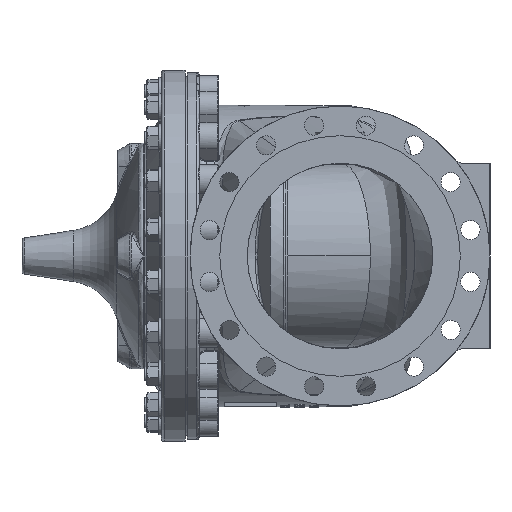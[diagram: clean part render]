
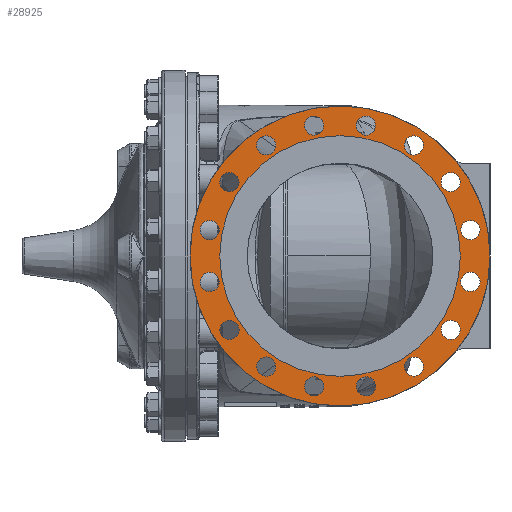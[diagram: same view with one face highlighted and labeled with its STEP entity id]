
A CAD part, left-side view. The second image highlights one B-rep face of the part: STEP entity #28925.
In plain terms, the highlighted planar face has unit normal (-1, 0, 0).
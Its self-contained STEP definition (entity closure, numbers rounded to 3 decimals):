
#1570=FACE_BOUND('',#4297,.T.);
#1571=FACE_BOUND('',#4298,.T.);
#1572=FACE_BOUND('',#4299,.T.);
#1573=FACE_BOUND('',#4300,.T.);
#1574=FACE_BOUND('',#4301,.T.);
#1575=FACE_BOUND('',#4302,.T.);
#1576=FACE_BOUND('',#4303,.T.);
#1577=FACE_BOUND('',#4304,.T.);
#1578=FACE_BOUND('',#4305,.T.);
#1579=FACE_BOUND('',#4306,.T.);
#1580=FACE_BOUND('',#4307,.T.);
#1581=FACE_BOUND('',#4308,.T.);
#1582=FACE_BOUND('',#4309,.T.);
#1583=FACE_BOUND('',#4310,.T.);
#1584=FACE_BOUND('',#4311,.T.);
#1585=FACE_BOUND('',#4312,.T.);
#1586=FACE_BOUND('',#4313,.T.);
#1741=PLANE('',#30983);
#2348=FACE_OUTER_BOUND('',#4296,.T.);
#4296=EDGE_LOOP('',(#19391));
#4297=EDGE_LOOP('',(#19392));
#4298=EDGE_LOOP('',(#19393));
#4299=EDGE_LOOP('',(#19394));
#4300=EDGE_LOOP('',(#19395));
#4301=EDGE_LOOP('',(#19396));
#4302=EDGE_LOOP('',(#19397));
#4303=EDGE_LOOP('',(#19398));
#4304=EDGE_LOOP('',(#19399));
#4305=EDGE_LOOP('',(#19400));
#4306=EDGE_LOOP('',(#19401));
#4307=EDGE_LOOP('',(#19402));
#4308=EDGE_LOOP('',(#19403));
#4309=EDGE_LOOP('',(#19404));
#4310=EDGE_LOOP('',(#19405));
#4311=EDGE_LOOP('',(#19406));
#4312=EDGE_LOOP('',(#19407));
#4313=EDGE_LOOP('',(#19408));
#6347=CIRCLE('',#30860,15.5);
#6349=CIRCLE('',#30863,15.5);
#6351=CIRCLE('',#30866,15.5);
#6353=CIRCLE('',#30869,15.5);
#6355=CIRCLE('',#30872,15.5);
#6357=CIRCLE('',#30875,15.5);
#6359=CIRCLE('',#30878,15.5);
#6361=CIRCLE('',#30881,15.5);
#6363=CIRCLE('',#30884,15.5);
#6365=CIRCLE('',#30887,15.5);
#6367=CIRCLE('',#30890,15.5);
#6369=CIRCLE('',#30893,15.5);
#6371=CIRCLE('',#30896,15.5);
#6373=CIRCLE('',#30899,15.5);
#6375=CIRCLE('',#30902,15.5);
#6377=CIRCLE('',#30905,15.5);
#6433=CIRCLE('',#30984,242.5);
#6434=CIRCLE('',#30985,194.5);
#11589=VERTEX_POINT('',#43202);
#11591=VERTEX_POINT('',#43208);
#11593=VERTEX_POINT('',#43214);
#11595=VERTEX_POINT('',#43220);
#11597=VERTEX_POINT('',#43226);
#11599=VERTEX_POINT('',#43232);
#11601=VERTEX_POINT('',#43238);
#11603=VERTEX_POINT('',#43244);
#11605=VERTEX_POINT('',#43250);
#11607=VERTEX_POINT('',#43256);
#11609=VERTEX_POINT('',#43262);
#11611=VERTEX_POINT('',#43268);
#11613=VERTEX_POINT('',#43274);
#11615=VERTEX_POINT('',#43280);
#11617=VERTEX_POINT('',#43286);
#11619=VERTEX_POINT('',#43292);
#11689=VERTEX_POINT('',#43561);
#11690=VERTEX_POINT('',#43563);
#14485=EDGE_CURVE('',#11589,#11589,#6347,.T.);
#14488=EDGE_CURVE('',#11591,#11591,#6349,.T.);
#14491=EDGE_CURVE('',#11593,#11593,#6351,.T.);
#14494=EDGE_CURVE('',#11595,#11595,#6353,.T.);
#14497=EDGE_CURVE('',#11597,#11597,#6355,.T.);
#14500=EDGE_CURVE('',#11599,#11599,#6357,.T.);
#14503=EDGE_CURVE('',#11601,#11601,#6359,.T.);
#14506=EDGE_CURVE('',#11603,#11603,#6361,.T.);
#14509=EDGE_CURVE('',#11605,#11605,#6363,.T.);
#14512=EDGE_CURVE('',#11607,#11607,#6365,.T.);
#14515=EDGE_CURVE('',#11609,#11609,#6367,.T.);
#14518=EDGE_CURVE('',#11611,#11611,#6369,.T.);
#14521=EDGE_CURVE('',#11613,#11613,#6371,.T.);
#14524=EDGE_CURVE('',#11615,#11615,#6373,.T.);
#14527=EDGE_CURVE('',#11617,#11617,#6375,.T.);
#14530=EDGE_CURVE('',#11619,#11619,#6377,.T.);
#14621=EDGE_CURVE('',#11689,#11689,#6433,.T.);
#14622=EDGE_CURVE('',#11690,#11690,#6434,.T.);
#19391=ORIENTED_EDGE('',*,*,#14621,.F.);
#19392=ORIENTED_EDGE('',*,*,#14485,.T.);
#19393=ORIENTED_EDGE('',*,*,#14488,.T.);
#19394=ORIENTED_EDGE('',*,*,#14491,.T.);
#19395=ORIENTED_EDGE('',*,*,#14494,.T.);
#19396=ORIENTED_EDGE('',*,*,#14497,.T.);
#19397=ORIENTED_EDGE('',*,*,#14500,.T.);
#19398=ORIENTED_EDGE('',*,*,#14503,.T.);
#19399=ORIENTED_EDGE('',*,*,#14506,.T.);
#19400=ORIENTED_EDGE('',*,*,#14509,.T.);
#19401=ORIENTED_EDGE('',*,*,#14512,.T.);
#19402=ORIENTED_EDGE('',*,*,#14515,.T.);
#19403=ORIENTED_EDGE('',*,*,#14518,.T.);
#19404=ORIENTED_EDGE('',*,*,#14521,.T.);
#19405=ORIENTED_EDGE('',*,*,#14524,.T.);
#19406=ORIENTED_EDGE('',*,*,#14527,.T.);
#19407=ORIENTED_EDGE('',*,*,#14530,.T.);
#19408=ORIENTED_EDGE('',*,*,#14622,.F.);
#28925=ADVANCED_FACE('',(#2348,#1570,#1571,#1572,#1573,#1574,#1575,#1576,
#1577,#1578,#1579,#1580,#1581,#1582,#1583,#1584,#1585,#1586),#1741,.F.);
#30860=AXIS2_PLACEMENT_3D('',#43203,#34558,#34559);
#30863=AXIS2_PLACEMENT_3D('',#43209,#34565,#34566);
#30866=AXIS2_PLACEMENT_3D('',#43215,#34572,#34573);
#30869=AXIS2_PLACEMENT_3D('',#43221,#34579,#34580);
#30872=AXIS2_PLACEMENT_3D('',#43227,#34586,#34587);
#30875=AXIS2_PLACEMENT_3D('',#43233,#34593,#34594);
#30878=AXIS2_PLACEMENT_3D('',#43239,#34600,#34601);
#30881=AXIS2_PLACEMENT_3D('',#43245,#34607,#34608);
#30884=AXIS2_PLACEMENT_3D('',#43251,#34614,#34615);
#30887=AXIS2_PLACEMENT_3D('',#43257,#34621,#34622);
#30890=AXIS2_PLACEMENT_3D('',#43263,#34628,#34629);
#30893=AXIS2_PLACEMENT_3D('',#43269,#34635,#34636);
#30896=AXIS2_PLACEMENT_3D('',#43275,#34642,#34643);
#30899=AXIS2_PLACEMENT_3D('',#43281,#34649,#34650);
#30902=AXIS2_PLACEMENT_3D('',#43287,#34656,#34657);
#30905=AXIS2_PLACEMENT_3D('',#43293,#34663,#34664);
#30983=AXIS2_PLACEMENT_3D('',#43560,#34844,#34845);
#30984=AXIS2_PLACEMENT_3D('',#43562,#34846,#34847);
#30985=AXIS2_PLACEMENT_3D('',#43564,#34848,#34849);
#34558=DIRECTION('center_axis',(1.,0.,0.));
#34559=DIRECTION('ref_axis',(0.,-0.383,-0.924));
#34565=DIRECTION('center_axis',(1.,0.,0.));
#34566=DIRECTION('ref_axis',(0.,-0.707,-0.707));
#34572=DIRECTION('center_axis',(1.,0.,0.));
#34573=DIRECTION('ref_axis',(0.,-0.924,-0.383));
#34579=DIRECTION('center_axis',(1.,0.,0.));
#34580=DIRECTION('ref_axis',(0.,-1.,0.));
#34586=DIRECTION('center_axis',(1.,0.,0.));
#34587=DIRECTION('ref_axis',(0.,-0.924,0.383));
#34593=DIRECTION('center_axis',(1.,0.,0.));
#34594=DIRECTION('ref_axis',(0.,-0.707,0.707));
#34600=DIRECTION('center_axis',(1.,0.,0.));
#34601=DIRECTION('ref_axis',(0.,-0.383,0.924));
#34607=DIRECTION('center_axis',(1.,0.,0.));
#34608=DIRECTION('ref_axis',(0.,0.,
1.));
#34614=DIRECTION('center_axis',(1.,0.,0.));
#34615=DIRECTION('ref_axis',(0.,0.383,0.924));
#34621=DIRECTION('center_axis',(1.,0.,0.));
#34622=DIRECTION('ref_axis',(0.,0.707,0.707));
#34628=DIRECTION('center_axis',(1.,0.,0.));
#34629=DIRECTION('ref_axis',(0.,0.924,0.383));
#34635=DIRECTION('center_axis',(1.,0.,0.));
#34636=DIRECTION('ref_axis',(0.,1.,0.));
#34642=DIRECTION('center_axis',(1.,0.,0.));
#34643=DIRECTION('ref_axis',(0.,0.924,-0.383));
#34649=DIRECTION('center_axis',(1.,0.,0.));
#34650=DIRECTION('ref_axis',(0.,0.707,-0.707));
#34656=DIRECTION('center_axis',(1.,0.,0.));
#34657=DIRECTION('ref_axis',(0.,0.383,-0.924));
#34663=DIRECTION('center_axis',(1.,0.,0.));
#34664=DIRECTION('ref_axis',(0.,0.,
-1.));
#34844=DIRECTION('center_axis',(1.,0.,0.));
#34845=DIRECTION('ref_axis',(0.,0.,
-1.));
#34846=DIRECTION('center_axis',(1.,0.,0.));
#34847=DIRECTION('ref_axis',(0.,0.,
-1.));
#34848=DIRECTION('center_axis',(-1.,0.,0.));
#34849=DIRECTION('ref_axis',(0.,0.,
-1.));
#43202=CARTESIAN_POINT('',(-421.,-297.477,-27.624));
#43203=CARTESIAN_POINT('Origin',(-421.,-303.408,-41.944));
#43208=CARTESIAN_POINT('',(-421.,-324.551,-108.487));
#43209=CARTESIAN_POINT('Origin',(-421.,-335.511,-119.448));
#43214=CARTESIAN_POINT('',(-421.,-380.509,-172.834));
#43215=CARTESIAN_POINT('Origin',(-421.,-394.829,-178.766));
#43220=CARTESIAN_POINT('',(-421.,-456.833,-210.869));
#43221=CARTESIAN_POINT('Origin',(-421.,-472.333,-210.869));
#43226=CARTESIAN_POINT('',(-421.,-541.901,-216.8));
#43227=CARTESIAN_POINT('Origin',(-421.,-556.221,-210.869));
#43232=CARTESIAN_POINT('',(-421.,-622.764,-189.726));
#43233=CARTESIAN_POINT('Origin',(-421.,-633.725,-178.766));
#43238=CARTESIAN_POINT('',(-421.,-687.111,-133.768));
#43239=CARTESIAN_POINT('Origin',(-421.,-693.043,-119.448));
#43244=CARTESIAN_POINT('',(-421.,-725.146,-57.444));
#43245=CARTESIAN_POINT('Origin',(-421.,-725.146,-41.944));
#43250=CARTESIAN_POINT('',(-421.,-731.077,27.624));
#43251=CARTESIAN_POINT('Origin',(-421.,-725.146,41.944));
#43256=CARTESIAN_POINT('',(-421.,-704.003,108.487));
#43257=CARTESIAN_POINT('Origin',(-421.,-693.043,119.448));
#43262=CARTESIAN_POINT('',(-421.,-648.045,172.834));
#43263=CARTESIAN_POINT('Origin',(-421.,-633.725,178.766));
#43268=CARTESIAN_POINT('',(-421.,-571.721,210.869));
#43269=CARTESIAN_POINT('Origin',(-421.,-556.221,210.869));
#43274=CARTESIAN_POINT('',(-421.,-486.653,216.8));
#43275=CARTESIAN_POINT('Origin',(-421.,-472.333,210.869));
#43280=CARTESIAN_POINT('',(-421.,-405.79,189.726));
#43281=CARTESIAN_POINT('Origin',(-421.,-394.829,178.766));
#43286=CARTESIAN_POINT('',(-421.,-341.443,133.768));
#43287=CARTESIAN_POINT('Origin',(-421.,-335.511,119.448));
#43292=CARTESIAN_POINT('',(-421.,-303.408,57.444));
#43293=CARTESIAN_POINT('Origin',(-421.,-303.408,41.944));
#43560=CARTESIAN_POINT('Origin',(-421.,-514.277,0.));
#43561=CARTESIAN_POINT('',(-421.,-514.277,242.5));
#43562=CARTESIAN_POINT('Origin',(-421.,-514.277,0.));
#43563=CARTESIAN_POINT('',(-421.,-514.277,194.5));
#43564=CARTESIAN_POINT('Origin',(-421.,-514.277,0.));
